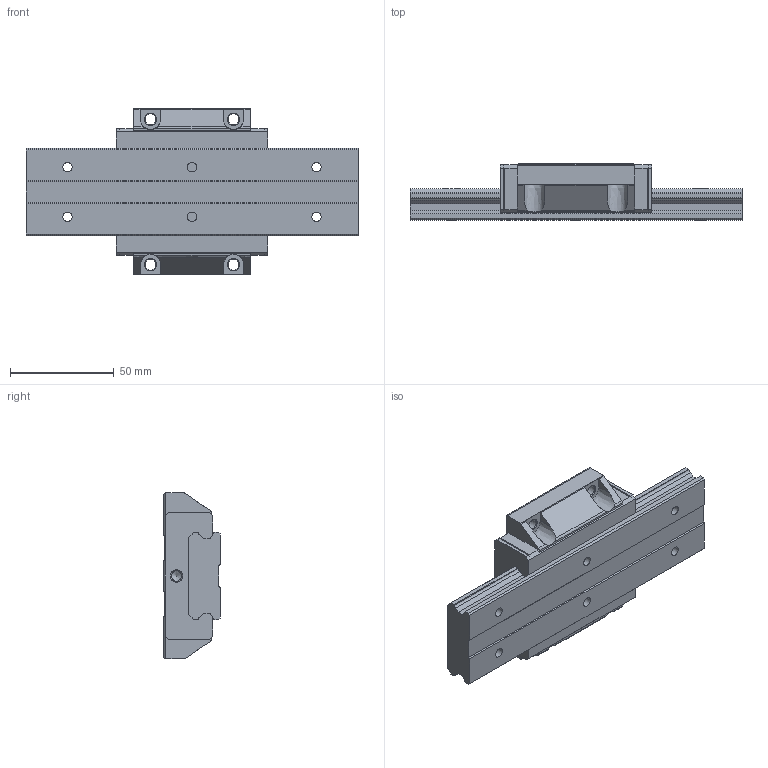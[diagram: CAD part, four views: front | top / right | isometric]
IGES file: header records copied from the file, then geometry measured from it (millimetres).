
Start section: Data from Parasolid IGES Translator 26.0.171, Copyright(c) 2006 Siemens PLM Software. All Rights Reserved.
Global section: file name: SHW27CA1SS-160L_G20_0_Without_grease_nipple_43-6_0_0_01.igs; native system: By Siemens PLM Incorporated; preprocessor: XPlus GENERIC/IGES 26.0.171; author: Noname; organization: Noname; date: 20240517.081759; units: millimetre
Bounding box: 160 x 27 x 80 mm (x, y, z)
Surface area: 41457.9 mm2 (no closed solid volume)
Topology: 0 solids, 0 shells, 190 faces, 1046 edges, 998 vertices
Faces by surface type: extrusion 124, revolution 66
